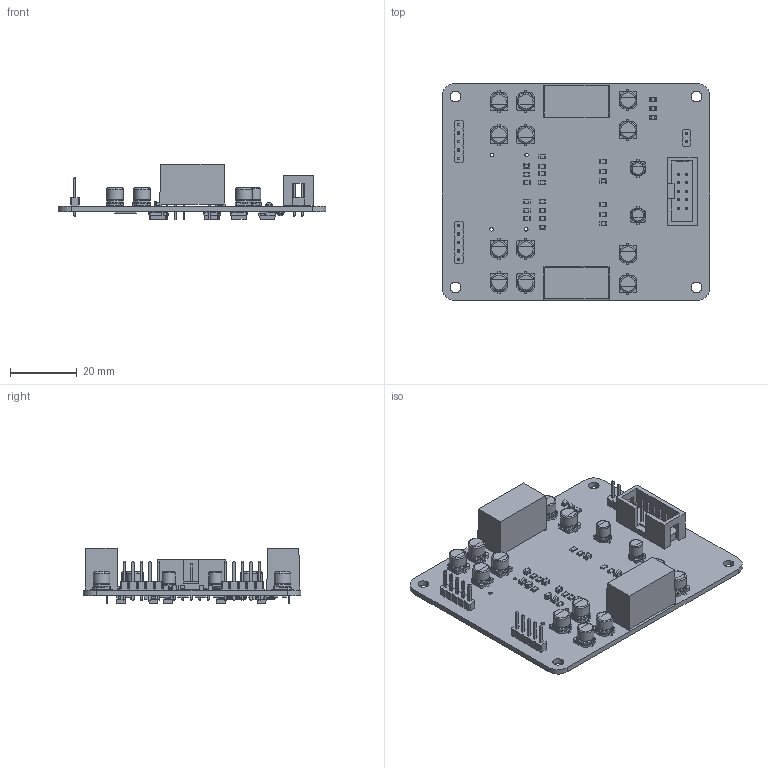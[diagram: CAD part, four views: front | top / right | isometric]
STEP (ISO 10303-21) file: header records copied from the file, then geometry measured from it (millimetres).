
FILE_DESCRIPTION(('KiCad electronic assembly'),'2;1');
FILE_NAME('gatedriverckt1.5.step','2023-09-15T23:14:29',('An Author'),( 'A Company'),'Open CASCADE STEP processor 6.9', 'KiCad to STEP converter','Unknown');
FILE_SCHEMA(('AUTOMOTIVE_DESIGN { 1 0 10303 214 1 1 1 1 }'));
Length unit declared in the file: millimetre
Products named in the file (26): Open CASCADE STEP translator 6.9 1; C_0805_2012Metric; SOLID; CP_Elec_5x5.4; CP_Elec_4x5.4; D_SMA; LED_0805_2012Metric; SOT-23; R_0805_2012Metric; R_2512_6332Metric; QA01; COMPOUND; PinHeader_1x05_P2.54mm_Vertical; IDC-Header_2x05_P2.54mm_Vertical; PinHeader_1x02_P2.54mm_Vertical
Assembly tree (88 placements, depth 3):
  Open CASCADE STEP translator 6.9 1
    C_0805_2012Metric  x16
      SOLID
    CP_Elec_5x5.4  x12
      SOLID
    CP_Elec_4x5.4  x2
      SOLID
    D_SMA  x7
      SOLID
    LED_0805_2012Metric  x3
      SOLID
    SOT-23  x4
      SOLID
    R_0805_2012Metric  x21
      SOLID
    R_2512_6332Metric  x4
      SOLID
    QA01  x2
      COMPOUND
    PinHeader_1x05_P2.54mm_Vertical  x2
      SOLID
    IDC-Header_2x05_P2.54mm_Vertical
      SOLID
    PinHeader_1x02_P2.54mm_Vertical
      SOLID
    COMPOUND
Bounding box: 80 x 65 x 16.6 mm (x, y, z)
Volume: 15404.1 mm3; surface area: 18453.1 mm2
Topology: 86 solids, 86 shells, 3071 faces, 7713 edges, 4918 vertices
Faces by surface type: plane 2106, cylinder 689, bspline 206, torus 56, revolution 14
Full cylindrical faces by diameter (mm): 1 x28, 1.06 x4, 1.3 x10, 3.2 x4, 4 x4, 5 x24
Entity records: 56661 total; most frequent: CARTESIAN_POINT 9620, DIRECTION 7792, LINE 5324, VECTOR 5324, ORIENTED_EDGE 4010, PCURVE 4010, DEFINITIONAL_REPRESENTATION 4010, EDGE_CURVE 2005
